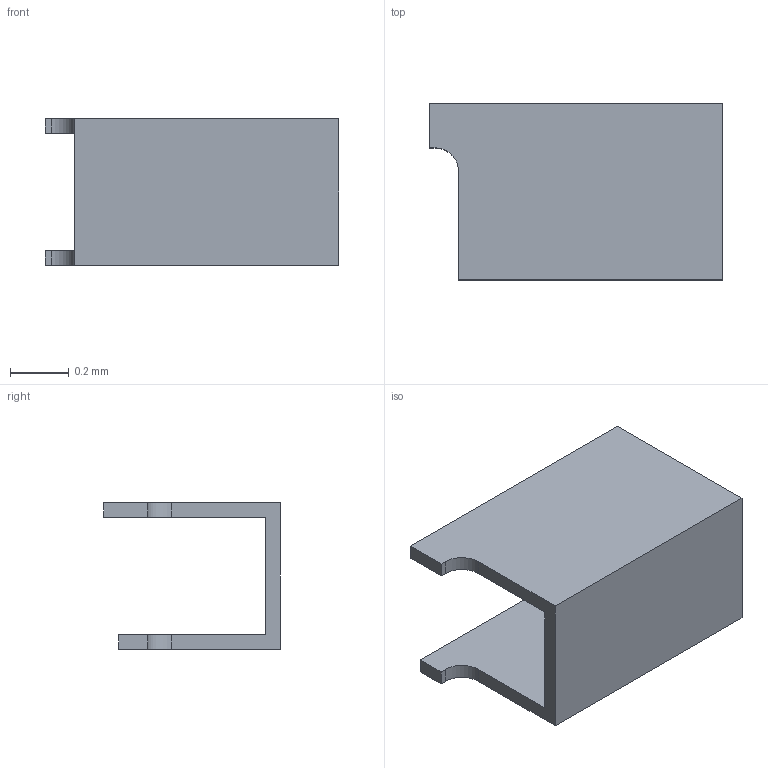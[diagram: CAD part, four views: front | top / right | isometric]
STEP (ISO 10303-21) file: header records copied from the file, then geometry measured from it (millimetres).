
FILE_DESCRIPTION(/* description */ ('STEP AP242 Edition 2','CAx-IF Rec.Pracs.---Representation and Presentation of Product Manufacturing Information (PMI)---4.0---2014-10-13','CAx-IF Rec.Pracs.---3D Tessellated Geometry---0.4---2014-09-14','2;1','CAx-IF Rec.Pracs.---User Defined Attributes---1.5---2016-08-15'),/* implementation_level */ '2;1');
FILE_NAME(/* name */ 'Assembly 1 - RES-ARRAY-SMD_1206-8P-L5.1-W3.1-BL~RES-ARRAY-SMD_1206-8P-L5.1-W3.1-H0.55-BL~nxQB_1 (7)',/* time_stamp */ '2026-04-02T09:55:20Z',/* author */ (''),/* organization */ (''),/* preprocessor_version */ 'ST-DEVELOPER v20',/* originating_system */ 'ONSHAPE BY PTC INC, 1.212',/* authorisation */ ' ');
FILE_SCHEMA (('AP242_MANAGED_MODEL_BASED_3D_ENGINEERING_MIM_LF { 1 0 10303 442 3 1 4 }'));
Length unit declared in the file: metre
Products named in the file (1): RES-ARRAY-SMD_1206-8P-L5.1-W3.1-BL~RES-ARRAY-SMD_1206-8P-L5.1-W3.1-H0.
55-BL~nxQB_1
Bounding box: 1 x 0.6 x 0.5 mm (x, y, z)
Volume: 0.1 mm3; surface area: 3.1 mm2
Topology: 1 solids, 1 shells, 16 faces, 42 edges, 28 vertices
Faces by surface type: plane 14, cylinder 2
Entity records: 590 total; most frequent: CARTESIAN_POINT 87, ORIENTED_EDGE 84, DIRECTION 80, EDGE_CURVE 42, LINE 38, VECTOR 38, VERTEX_POINT 28, AXIS2_PLACEMENT_3D 21
